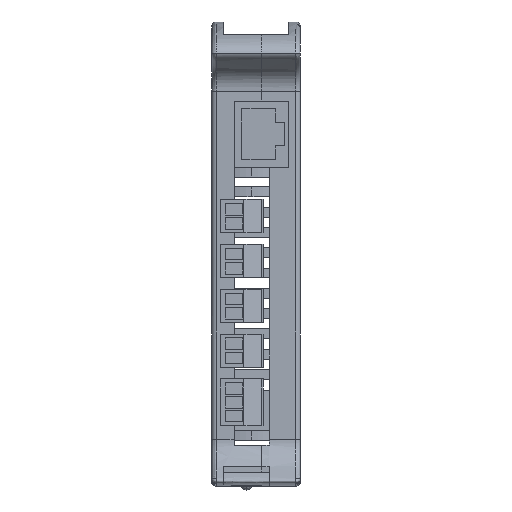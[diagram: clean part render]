
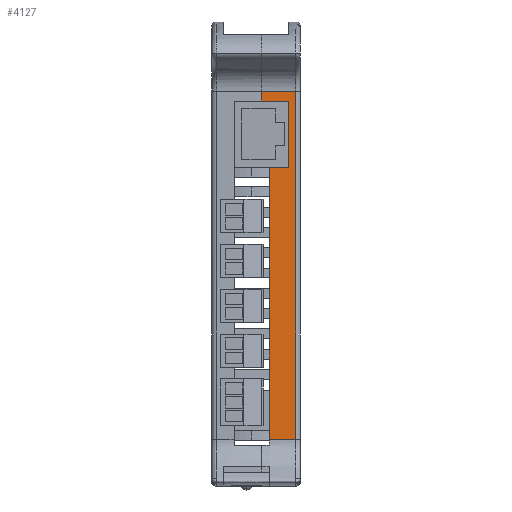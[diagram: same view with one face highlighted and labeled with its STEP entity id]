
A CAD part, left-side view. The second image highlights one B-rep face of the part: STEP entity #4127.
In plain terms, the highlighted planar face has unit normal (-1, 0, 0) as drawn and (0, 0, -1) by its records, which use the part's own axes.
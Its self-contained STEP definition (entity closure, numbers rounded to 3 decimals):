
#1088 = VECTOR ( 'NONE', #24287, 1000. ) ;
#1473 = CARTESIAN_POINT ( 'NONE',  ( 0., 1.25, -41.5 ) ) ;
#1953 = VERTEX_POINT ( 'NONE', #23723 ) ;
#2170 = CARTESIAN_POINT ( 'NONE',  ( 47.5, 8., -41.5 ) ) ;
#3954 = CARTESIAN_POINT ( 'NONE',  ( 47.5, 1.25, -41.5 ) ) ;
#4127 = ADVANCED_FACE ( 'NONE', ( #12168 ), #25709, .T. ) ;
#4387 = VERTEX_POINT ( 'NONE', #20992 ) ;
#5816 = VERTEX_POINT ( 'NONE', #18036 ) ;
#6256 = EDGE_LOOP ( 'NONE', ( #45139, #45280, #36985, #9023, #13589, #8772, #13088, #31682 ) ) ;
#7058 = LINE ( 'NONE', #14478, #51411 ) ;
#7288 = VECTOR ( 'NONE', #15112, 1000. ) ;
#7447 = AXIS2_PLACEMENT_3D ( 'NONE', #25176, #25119, #25115 ) ;
#8772 = ORIENTED_EDGE ( 'NONE', *, *, #34381, .T. ) ;
#9023 = ORIENTED_EDGE ( 'NONE', *, *, #49978, .F. ) ;
#10038 = LINE ( 'NONE', #46588, #50675 ) ;
#12020 = DIRECTION ( 'NONE',  ( 1., 0., 0. ) ) ;
#12168 = FACE_OUTER_BOUND ( 'NONE', #6256, .T. ) ;
#13043 = LINE ( 'NONE', #14465, #7288 ) ;
#13088 = ORIENTED_EDGE ( 'NONE', *, *, #24312, .T. ) ;
#13512 = CARTESIAN_POINT ( 'NONE',  ( 0., 10., -41.5 ) ) ;
#13589 = ORIENTED_EDGE ( 'NONE', *, *, #45499, .F. ) ;
#14375 = DIRECTION ( 'NONE',  ( 1., 0., 0. ) ) ;
#14465 = CARTESIAN_POINT ( 'NONE',  ( -39.238, 10., -41.5 ) ) ;
#14478 = CARTESIAN_POINT ( 'NONE',  ( 0., 8., -41.5 ) ) ;
#15112 = DIRECTION ( 'NONE',  ( 0., -1., 0. ) ) ;
#16389 = VERTEX_POINT ( 'NONE', #39634 ) ;
#18036 = CARTESIAN_POINT ( 'NONE',  ( -41.722, 10., -41.5 ) ) ;
#18515 = LINE ( 'NONE', #13512, #34523 ) ;
#18566 = CARTESIAN_POINT ( 'NONE',  ( 0., 3., -41.5 ) ) ;
#20992 = CARTESIAN_POINT ( 'NONE',  ( -41.722, 1.25, -41.5 ) ) ;
#21079 = CARTESIAN_POINT ( 'NONE',  ( -39.238, 10., -41.5 ) ) ;
#22401 = LINE ( 'NONE', #1473, #32038 ) ;
#23578 = EDGE_CURVE ( 'NONE', #48655, #41393, #41881, .T. ) ;
#23723 = CARTESIAN_POINT ( 'NONE',  ( -39.238, 3., -41.5 ) ) ;
#23934 = VERTEX_POINT ( 'NONE', #21079 ) ;
#24287 = DIRECTION ( 'NONE',  ( 0., 1., 0. ) ) ;
#24312 = EDGE_CURVE ( 'NONE', #23934, #1953, #13043, .T. ) ;
#24357 = CARTESIAN_POINT ( 'NONE',  ( -22.238, 10., -41.5 ) ) ;
#25115 = DIRECTION ( 'NONE',  ( -1., 0., 0. ) ) ;
#25119 = DIRECTION ( 'NONE',  ( 0., 0., -1. ) ) ;
#25176 = CARTESIAN_POINT ( 'NONE',  ( 0., 10., -41.5 ) ) ;
#25266 = DIRECTION ( 'NONE',  ( 1., 0., 0. ) ) ;
#25709 = PLANE ( 'NONE',  #7447 ) ;
#26119 = VERTEX_POINT ( 'NONE', #28902 ) ;
#26285 = EDGE_CURVE ( 'NONE', #16389, #26119, #38787, .T. ) ;
#28902 = CARTESIAN_POINT ( 'NONE',  ( -22.238, 8., -41.5 ) ) ;
#31020 = EDGE_CURVE ( 'NONE', #26119, #41393, #7058, .T. ) ;
#31682 = ORIENTED_EDGE ( 'NONE', *, *, #45069, .T. ) ;
#32038 = VECTOR ( 'NONE', #25266, 1000. ) ;
#34381 = EDGE_CURVE ( 'NONE', #5816, #23934, #18515, .T. ) ;
#34523 = VECTOR ( 'NONE', #12020, 1000. ) ;
#36452 = DIRECTION ( 'NONE',  ( 0., 1., 0. ) ) ;
#36881 = CARTESIAN_POINT ( 'NONE',  ( 47.5, 5.625, -41.5 ) ) ;
#36985 = ORIENTED_EDGE ( 'NONE', *, *, #23578, .F. ) ;
#38787 = LINE ( 'NONE', #24357, #1088 ) ;
#39634 = CARTESIAN_POINT ( 'NONE',  ( -22.238, 3., -41.5 ) ) ;
#40731 = VECTOR ( 'NONE', #36452, 1000. ) ;
#41393 = VERTEX_POINT ( 'NONE', #2170 ) ;
#41881 = LINE ( 'NONE', #36881, #40731 ) ;
#42438 = DIRECTION ( 'NONE',  ( 1., 0., 0. ) ) ;
#43780 = LINE ( 'NONE', #18566, #44275 ) ;
#44275 = VECTOR ( 'NONE', #42438, 1000. ) ;
#45069 = EDGE_CURVE ( 'NONE', #1953, #16389, #43780, .T. ) ;
#45139 = ORIENTED_EDGE ( 'NONE', *, *, #26285, .T. ) ;
#45280 = ORIENTED_EDGE ( 'NONE', *, *, #31020, .T. ) ;
#45499 = EDGE_CURVE ( 'NONE', #5816, #4387, #10038, .T. ) ;
#45760 = DIRECTION ( 'NONE',  ( 0., -1., 0. ) ) ;
#46588 = CARTESIAN_POINT ( 'NONE',  ( -41.722, 5.625, -41.5 ) ) ;
#48655 = VERTEX_POINT ( 'NONE', #3954 ) ;
#49978 = EDGE_CURVE ( 'NONE', #4387, #48655, #22401, .T. ) ;
#50675 = VECTOR ( 'NONE', #45760, 1000. ) ;
#51411 = VECTOR ( 'NONE', #14375, 1000. ) ;
